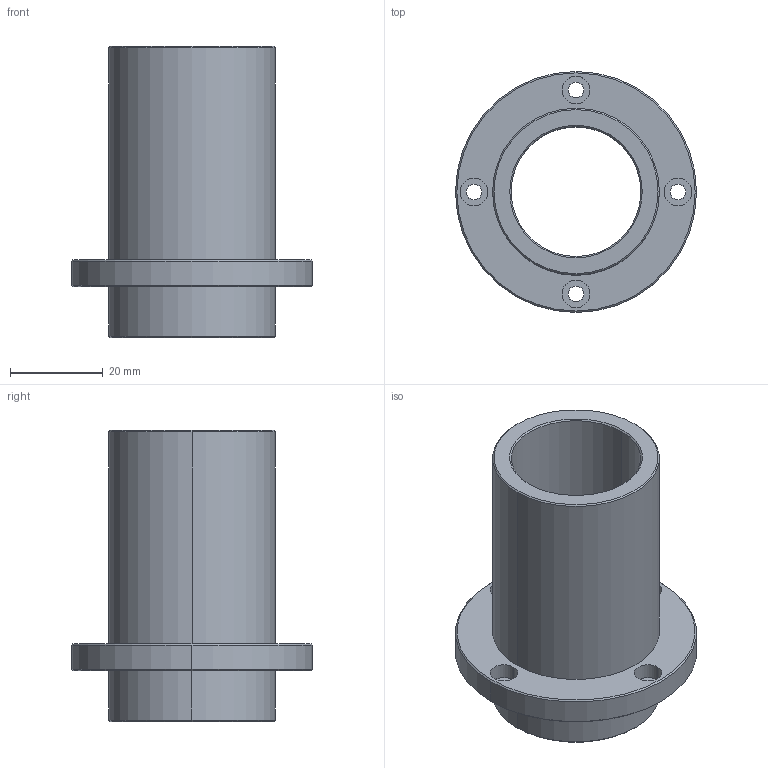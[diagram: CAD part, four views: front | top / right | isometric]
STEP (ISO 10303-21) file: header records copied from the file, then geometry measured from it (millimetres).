
FILE_DESCRIPTION (( 'STEP AP214' ), '1' );
FILE_NAME ('錨璃3.STEP', '2026-10-12T07:05:33', ( '' ), ( '' ), 'SwSTEP 2.0', 'SolidWorks 2024', '' );
FILE_SCHEMA (( 'AUTOMOTIVE_DESIGN' ));
Length unit declared in the file: millimetre
Products named in the file (1): 零件3
Bounding box: 52 x 52 x 62.8 mm (x, y, z)
Volume: 29254.7 mm3; surface area: 16420.3 mm2
Topology: 1 solids, 1 shells, 50 faces, 108 edges, 68 vertices
Faces by surface type: cylinder 28, cone 12, plane 10
Entity records: 1427 total; most frequent: DIRECTION 278, CARTESIAN_POINT 227, ORIENTED_EDGE 216, AXIS2_PLACEMENT_3D 119, EDGE_CURVE 108, VERTEX_POINT 68, EDGE_LOOP 68, CIRCLE 68
